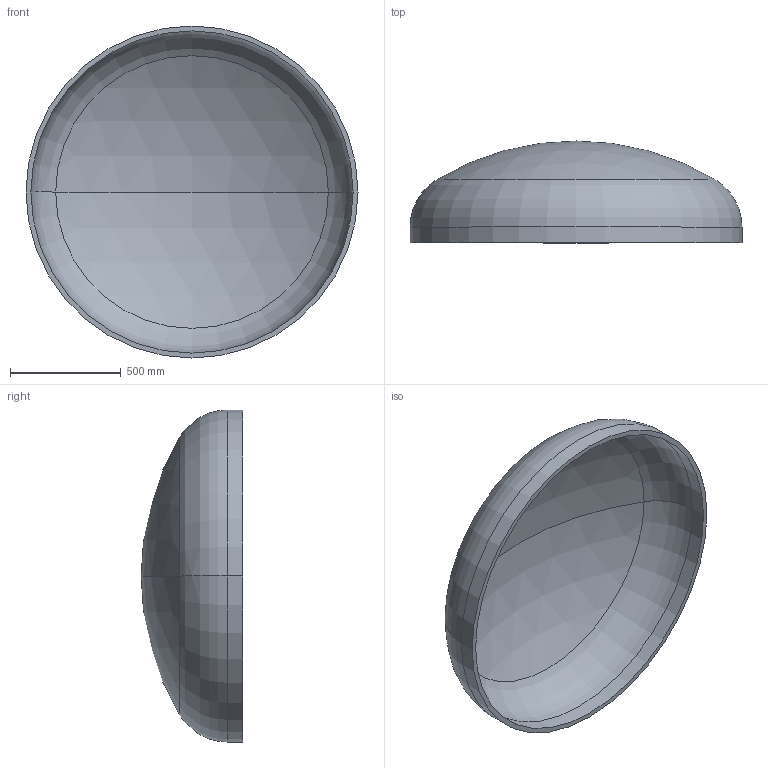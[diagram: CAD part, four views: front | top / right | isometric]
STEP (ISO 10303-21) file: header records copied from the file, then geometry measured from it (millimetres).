
FILE_DESCRIPTION (( 'STEP AP203' ), '1' );
FILE_NAME ('DIN 28013 Korbbogenform_-_Boden DIN 28013 - 1500 x 70 - I - s=22.step', '2016-07-01T10:39:23', ( '' ), ( '' ), 'SwSTEP 2.0', 'SolidWorks 2013', '' );
FILE_SCHEMA (( 'CONFIG_CONTROL_DESIGN' ));
Length unit declared in the file: millimetre
Products named in the file (1): DIN 28013 Korbbogenform_-_Boden DIN 28013 - 1500 x 70 - I - s=22
Bounding box: 1500 x 459.6 x 1500 mm (x, y, z)
Volume: 59916888.6 mm3; surface area: 5550153.7 mm2
Topology: 1 solids, 1 shells, 13 faces, 24 edges, 14 vertices
Faces by surface type: torus 4, cylinder 4, sphere 4, plane 1
Entity records: 407 total; most frequent: DIRECTION 72, CARTESIAN_POINT 52, ORIENTED_EDGE 48, AXIS2_PLACEMENT_3D 34, EDGE_CURVE 24, CIRCLE 20, EDGE_LOOP 14, VERTEX_POINT 14
